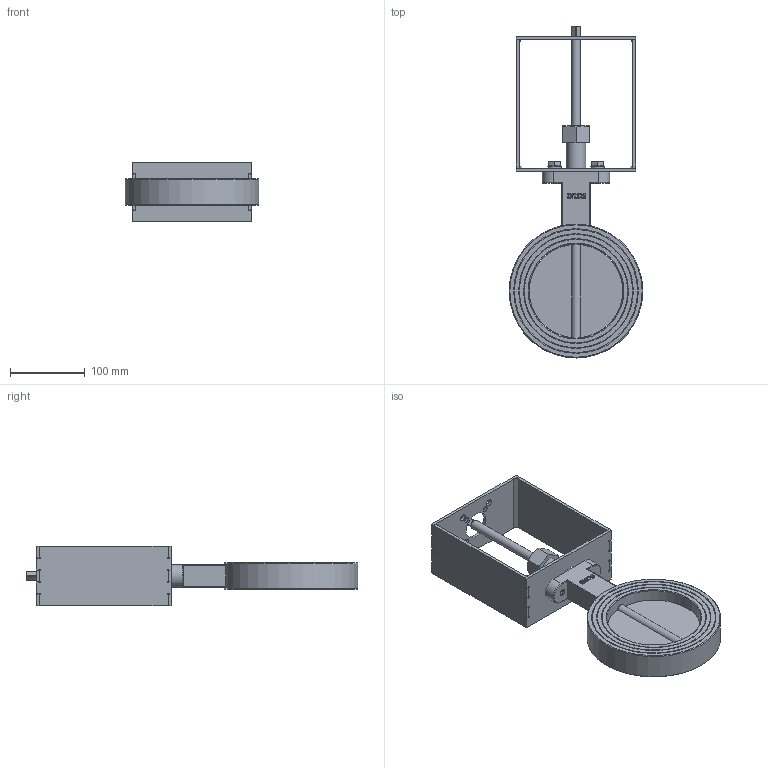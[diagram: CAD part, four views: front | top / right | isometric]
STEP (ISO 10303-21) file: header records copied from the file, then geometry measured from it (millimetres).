
FILE_DESCRIPTION(/* description */ (''),/* implementation_level */ '2;1');
FILE_NAME(/* name */ 'C:\Users\miv\Desktop\Typ 5k DN125\Typ 5k DN125.stp',/* time_stamp */ '2015-09-25T08:16:42+02:00',/* author */ ('Technik-3D'),/* organization */ (''),/* preprocessor_version */ 'ST-DEVELOPER v15.6',/* originating_system */ 'Autodesk Inventor 2015',/* authorisation */ '');
FILE_SCHEMA (('AUTOMOTIVE_DESIGN { 1 0 10303 214 3 1 1 }'));
Length unit declared in the file: millimetre
Products named in the file (14): Gussring DN125; Graphitbuchse d=12; ISO 49 Kappe T1 3_4; Stopfbuchse d=12 MS; Konsole F05-07 Gußring_Schweißnähte; Unterteil Konsole F04,05,07 für Gussring; Seitenteil F05, F07, ST; Oberteil Konsole F05, F07; DIN 127 - A 10; ISO 4017 - M10 x 20DIN EN; Konsole F05-07 Gußring; DN125 Ronde; Welle DN125; Typ 5k DN125
Bounding box: 179 x 444 x 80 mm (x, y, z)
Volume: 854752.4 mm3; surface area: 260896.9 mm2
Topology: 18 solids, 18 shells, 401 faces, 989 edges, 650 vertices
Faces by surface type: plane 237, cylinder 90, cone 39, bspline 33, torus 2
Full cylindrical faces by diameter (mm): 7 x4, 8.376 x2, 9 x4, 10 x2, 11 x2, 12 x2, 12.5 x3, 13 x1, 14.63 x2, 17.5 x1, 18 x2, 20 x1, 26 x1, 35 x1, 37 x1, 124.8 x1, 126 x1, 138.25 x2, 140.25 x2, 151.5 x2, 153.5 x2, 164.75 x2, 166.75 x2, 179 x1
Entity records: 10478 total; most frequent: CARTESIAN_POINT 2311, ORIENTED_EDGE 1554, DIRECTION 1548, EDGE_CURVE 777, VERTEX_POINT 543, AXIS2_PLACEMENT_3D 538, LINE 472, VECTOR 472
